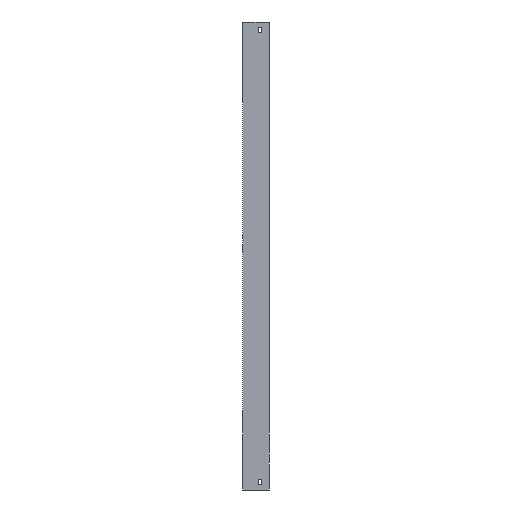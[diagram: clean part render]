
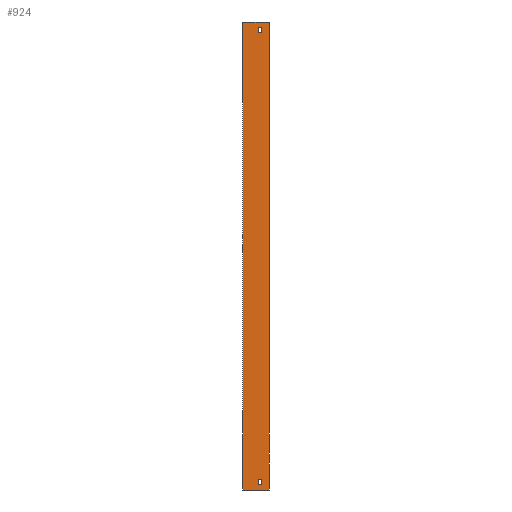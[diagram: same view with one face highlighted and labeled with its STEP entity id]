
A CAD part, left-side view. The second image highlights one B-rep face of the part: STEP entity #924.
In plain terms, the highlighted planar face has unit normal (-1, 0, 0).
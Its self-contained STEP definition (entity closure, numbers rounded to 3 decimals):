
#9 = VECTOR ( 'NONE', #256, 1000. ) ;
#20 = EDGE_LOOP ( 'NONE', ( #543, #1311, #720, #1620 ) ) ;
#47 = DIRECTION ( 'NONE',  ( 1., 0., 0. ) ) ;
#58 = LINE ( 'NONE', #1100, #1353 ) ;
#90 = CARTESIAN_POINT ( 'NONE',  ( -704., 22., 30. ) ) ;
#110 = VERTEX_POINT ( 'NONE', #711 ) ;
#118 = CARTESIAN_POINT ( 'NONE',  ( -704., 22., -834. ) ) ;
#128 = EDGE_CURVE ( 'NONE', #110, #1463, #903, .T. ) ;
#131 = DIRECTION ( 'NONE',  ( 0., -1., 0. ) ) ;
#135 = DIRECTION ( 'NONE',  ( 0., 0., -1. ) ) ;
#136 = VECTOR ( 'NONE', #1687, 1000. ) ;
#167 = CARTESIAN_POINT ( 'NONE',  ( -704., 15., -844. ) ) ;
#178 = VERTEX_POINT ( 'NONE', #1939 ) ;
#222 = EDGE_CURVE ( 'NONE', #1680, #649, #620, .T. ) ;
#256 = DIRECTION ( 'NONE',  ( 0., 1., 0. ) ) ;
#263 = VECTOR ( 'NONE', #923, 1000. ) ;
#311 = EDGE_CURVE ( 'NONE', #1838, #510, #1771, .T. ) ;
#332 = CARTESIAN_POINT ( 'NONE',  ( -704., 15., -844. ) ) ;
#338 = VECTOR ( 'NONE', #1170, 1000. ) ;
#341 = VECTOR ( 'NONE', #1338, 1000. ) ;
#348 = FACE_BOUND ( 'NONE', #1565, .T. ) ;
#371 = CARTESIAN_POINT ( 'NONE',  ( -704., 52., -854. ) ) ;
#400 = CARTESIAN_POINT ( 'NONE',  ( -704., 15., 40. ) ) ;
#447 = ORIENTED_EDGE ( 'NONE', *, *, #1066, .F. ) ;
#452 = CARTESIAN_POINT ( 'NONE',  ( -704., 15., -834. ) ) ;
#487 = VECTOR ( 'NONE', #1603, 1000. ) ;
#488 = FACE_BOUND ( 'NONE', #20, .T. ) ;
#510 = VERTEX_POINT ( 'NONE', #1143 ) ;
#518 = VECTOR ( 'NONE', #1030, 1000. ) ;
#532 = VERTEX_POINT ( 'NONE', #400 ) ;
#543 = ORIENTED_EDGE ( 'NONE', *, *, #1468, .T. ) ;
#564 = LINE ( 'NONE', #118, #487 ) ;
#574 = CARTESIAN_POINT ( 'NONE',  ( -704., 15., 40. ) ) ;
#597 = EDGE_CURVE ( 'NONE', #649, #110, #564, .T. ) ;
#603 = VERTEX_POINT ( 'NONE', #1313 ) ;
#620 = LINE ( 'NONE', #167, #263 ) ;
#621 = DIRECTION ( 'NONE',  ( 0., 0., -1. ) ) ;
#646 = LINE ( 'NONE', #1368, #136 ) ;
#649 = VERTEX_POINT ( 'NONE', #452 ) ;
#656 = CARTESIAN_POINT ( 'NONE',  ( -704., 22., -844. ) ) ;
#692 = EDGE_CURVE ( 'NONE', #603, #532, #1512, .T. ) ;
#695 = VECTOR ( 'NONE', #1082, 1000. ) ;
#696 = AXIS2_PLACEMENT_3D ( 'NONE', #779, #47, #621 ) ;
#704 = CARTESIAN_POINT ( 'NONE',  ( -704., 22., -844. ) ) ;
#711 = CARTESIAN_POINT ( 'NONE',  ( -704., 22., -834. ) ) ;
#720 = ORIENTED_EDGE ( 'NONE', *, *, #1099, .T. ) ;
#724 = LINE ( 'NONE', #574, #338 ) ;
#742 = LINE ( 'NONE', #991, #341 ) ;
#779 = CARTESIAN_POINT ( 'NONE',  ( -704., 52., -854. ) ) ;
#878 = EDGE_LOOP ( 'NONE', ( #1110, #447, #1772, #1751 ) ) ;
#903 = LINE ( 'NONE', #704, #1037 ) ;
#923 = DIRECTION ( 'NONE',  ( 0., 0., 1. ) ) ;
#924 = ADVANCED_FACE ( 'NONE', ( #1820, #488, #348 ), #1487, .F. ) ;
#937 = ORIENTED_EDGE ( 'NONE', *, *, #597, .F. ) ;
#991 = CARTESIAN_POINT ( 'NONE',  ( -704., 22., -844. ) ) ;
#1009 = ORIENTED_EDGE ( 'NONE', *, *, #222, .F. ) ;
#1030 = DIRECTION ( 'NONE',  ( 0., 0., 1. ) ) ;
#1033 = CARTESIAN_POINT ( 'NONE',  ( -704., 52., -854. ) ) ;
#1037 = VECTOR ( 'NONE', #135, 1000. ) ;
#1066 = EDGE_CURVE ( 'NONE', #178, #510, #1289, .T. ) ;
#1082 = DIRECTION ( 'NONE',  ( 0., -1., 0. ) ) ;
#1097 = VERTEX_POINT ( 'NONE', #1913 ) ;
#1099 = EDGE_CURVE ( 'NONE', #532, #1097, #724, .T. ) ;
#1100 = CARTESIAN_POINT ( 'NONE',  ( -704., 52., -854. ) ) ;
#1110 = ORIENTED_EDGE ( 'NONE', *, *, #311, .T. ) ;
#1143 = CARTESIAN_POINT ( 'NONE',  ( -704., 0., 50. ) ) ;
#1165 = CARTESIAN_POINT ( 'NONE',  ( -704., 0., -854. ) ) ;
#1170 = DIRECTION ( 'NONE',  ( 0., 0., -1. ) ) ;
#1200 = VECTOR ( 'NONE', #1755, 1000. ) ;
#1209 = CARTESIAN_POINT ( 'NONE',  ( -704., 22., 30. ) ) ;
#1277 = EDGE_CURVE ( 'NONE', #1463, #1680, #742, .T. ) ;
#1289 = LINE ( 'NONE', #1622, #1200 ) ;
#1299 = EDGE_CURVE ( 'NONE', #1097, #1639, #1645, .T. ) ;
#1311 = ORIENTED_EDGE ( 'NONE', *, *, #692, .T. ) ;
#1313 = CARTESIAN_POINT ( 'NONE',  ( -704., 22., 40. ) ) ;
#1338 = DIRECTION ( 'NONE',  ( 0., -1., 0. ) ) ;
#1353 = VECTOR ( 'NONE', #1514, 1000. ) ;
#1368 = CARTESIAN_POINT ( 'NONE',  ( -704., 22., 40. ) ) ;
#1463 = VERTEX_POINT ( 'NONE', #656 ) ;
#1468 = EDGE_CURVE ( 'NONE', #1639, #603, #646, .T. ) ;
#1487 = PLANE ( 'NONE',  #696 ) ;
#1496 = EDGE_CURVE ( 'NONE', #1520, #178, #58, .T. ) ;
#1502 = CARTESIAN_POINT ( 'NONE',  ( -704., 22., 40. ) ) ;
#1512 = LINE ( 'NONE', #1502, #695 ) ;
#1514 = DIRECTION ( 'NONE',  ( 0., 0., 1. ) ) ;
#1518 = ORIENTED_EDGE ( 'NONE', *, *, #1277, .F. ) ;
#1520 = VERTEX_POINT ( 'NONE', #371 ) ;
#1565 = EDGE_LOOP ( 'NONE', ( #1518, #1900, #937, #1009 ) ) ;
#1595 = VECTOR ( 'NONE', #131, 1000. ) ;
#1603 = DIRECTION ( 'NONE',  ( 0., 1., 0. ) ) ;
#1620 = ORIENTED_EDGE ( 'NONE', *, *, #1299, .T. ) ;
#1622 = CARTESIAN_POINT ( 'NONE',  ( -704., 52., 50. ) ) ;
#1639 = VERTEX_POINT ( 'NONE', #90 ) ;
#1645 = LINE ( 'NONE', #1209, #9 ) ;
#1680 = VERTEX_POINT ( 'NONE', #332 ) ;
#1687 = DIRECTION ( 'NONE',  ( 0., 0., 1. ) ) ;
#1722 = EDGE_CURVE ( 'NONE', #1520, #1838, #1937, .T. ) ;
#1751 = ORIENTED_EDGE ( 'NONE', *, *, #1722, .T. ) ;
#1755 = DIRECTION ( 'NONE',  ( 0., -1., 0. ) ) ;
#1771 = LINE ( 'NONE', #1165, #518 ) ;
#1772 = ORIENTED_EDGE ( 'NONE', *, *, #1496, .F. ) ;
#1820 = FACE_OUTER_BOUND ( 'NONE', #878, .T. ) ;
#1829 = CARTESIAN_POINT ( 'NONE',  ( -704., 0., -854. ) ) ;
#1838 = VERTEX_POINT ( 'NONE', #1829 ) ;
#1900 = ORIENTED_EDGE ( 'NONE', *, *, #128, .F. ) ;
#1913 = CARTESIAN_POINT ( 'NONE',  ( -704., 15., 30. ) ) ;
#1937 = LINE ( 'NONE', #1033, #1595 ) ;
#1939 = CARTESIAN_POINT ( 'NONE',  ( -704., 52., 50. ) ) ;
